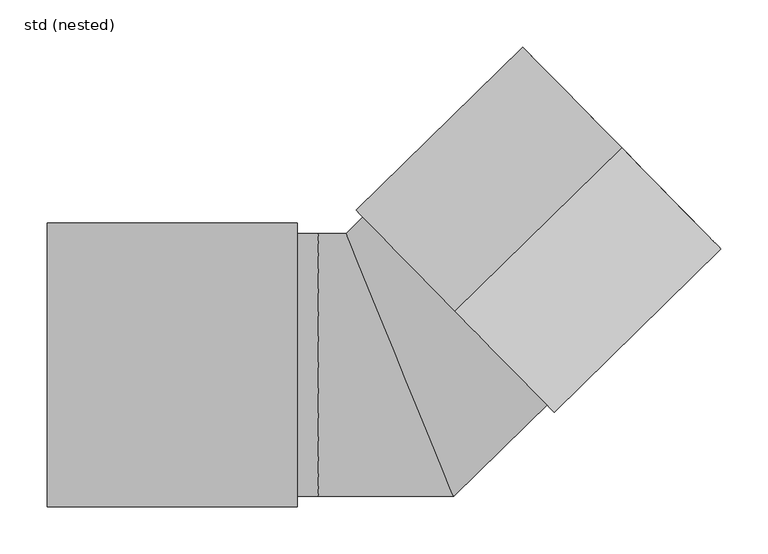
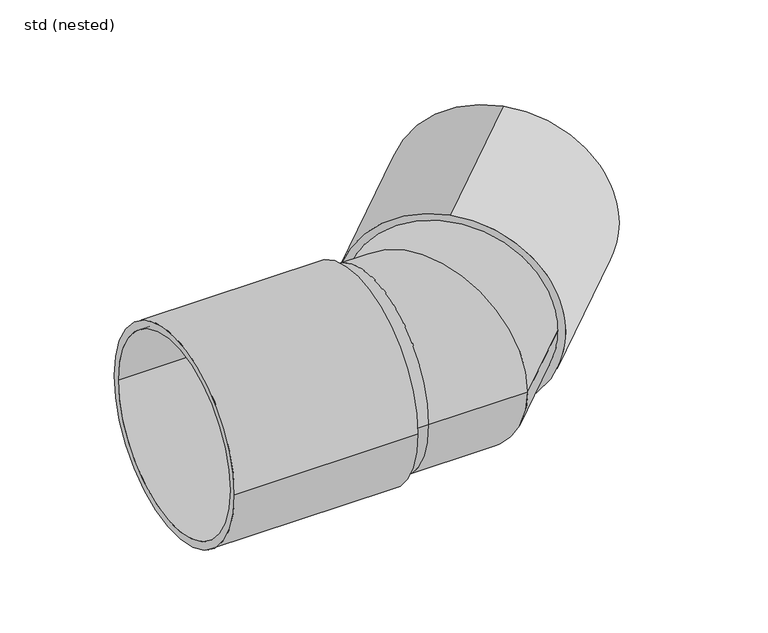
"""IFC4 building model written with IfcOpenShell, lengths in millimetres: pipe fitting geometry, NLRS_52_PIF_WPB_Ultra Kyma bocht 1MV SH_Dyka : std (nested)."""

from ifc_helpers import new_model, si_unit, point, frame, origin, origin_2d, place, context, project, spatial, circle_curve, ellipse_curve, trimmed, segment, composite_curve, outline, extrude, source, transform, mapped, element, save
from ifc_brep_helpers import plane_surface, cylinder_surface, advanced_brep


def std_nested_235c0f0a(model_context):
    return source(origin(), model_context, "Body", "SolidModel", [
        advanced_brep(
        [(-86.5741292, -140.0, 0.0), (57.1715948, -140.0, 0.0), (-57.1715948, 140.0, 0.0), (-86.5741292, 140.0, 0.0), (159.8263735, -39.3777879, 0.0), (61.8261736, 60.6020141, 140.0), (-36.1740264, 160.5818161, 0.0), (61.8261736, 60.6020141, -140.0), (147.1131373, 144.2002942, -140.0), (147.1131373, 144.2002942, 140.0), (-233.0, -140.0, 0.0), (-233.0, 140.0, 0.0)],
        [
            (0, 1),
            (1, 2, ellipse_curve(frame((0.0, 0.0, 0.0), z_axis=(-0.9257811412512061, -0.3780598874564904, 0.0), x_axis=(-0.37805988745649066, 0.925781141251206, 0.0)), 151.2236465, 140.0)),
            (2, 3),
            (3, 0, circle_curve(frame((-86.5741292, 0.0, 0.0), z_axis=(1.0, 0.0, 0.0), x_axis=(0.0, 1.0, 0.0)), 140.0)),
            (0, 3, circle_curve(frame((-86.5741292, 0.0, 0.0), z_axis=(1.0, 0.0, 0.0), x_axis=(0.0, 1.0, 0.0)), 140.0)),
            (2, 1, ellipse_curve(frame((0.0, 0.0, 0.0), z_axis=(-0.9257811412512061, -0.3780598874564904, 0.0), x_axis=(-0.37805988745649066, 0.925781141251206, 0.0)), 151.2236465, 140.0)),
            (1, 4),
            (4, 5, circle_curve(frame((61.8261736, 60.6020141, 0.0), z_axis=(-0.714141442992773, -0.7000014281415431, 0.0), x_axis=(-0.7000014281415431, 0.714141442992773, 0.0)), 140.0)),
            (5, 6, circle_curve(frame((61.8261736, 60.6020141, 0.0), z_axis=(-0.714141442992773, -0.7000014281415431, 0.0), x_axis=(-0.7000014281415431, 0.714141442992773, 0.0)), 140.0)),
            (6, 2),
            (6, 7, circle_curve(frame((61.8261736, 60.6020141, 0.0), z_axis=(-0.714141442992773, -0.7000014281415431, 0.0), x_axis=(-0.7000014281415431, 0.714141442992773, 0.0)), 140.0)),
            (7, 4, circle_curve(frame((61.8261736, 60.6020141, 0.0), z_axis=(-0.714141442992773, -0.7000014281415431, 0.0), x_axis=(-0.7000014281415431, 0.714141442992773, 0.0)), 140.0)),
            (8, 9, circle_curve(frame((147.1131373, 144.2002942, 0.0), z_axis=(0.7141414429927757, 0.7000014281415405, 0.0), x_axis=(0.0, 0.0, 1.0)), 140.0)),
            (9, 8, circle_curve(frame((147.1131373, 144.2002942, 0.0), z_axis=(0.7141414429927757, 0.7000014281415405, 0.0), x_axis=(0.0, 0.0, 1.0)), 140.0)),
            (8, 7),
            (5, 9),
            (10, 11, circle_curve(frame((-233.0, 0.0, 0.0), z_axis=(-1.0, 0.0, 0.0), x_axis=(0.0, 1.0, 0.0)), 140.0)),
            (11, 10, circle_curve(frame((-233.0, 0.0, 0.0), z_axis=(-1.0, 0.0, 0.0), x_axis=(0.0, 1.0, 0.0)), 140.0)),
            (10, 0),
            (3, 11),
        ],
        [
            cylinder_surface(frame((-86.5741292, 0.0, 0.0), z_axis=(-1.0, 0.0, 0.0), x_axis=(0.0, 1.0, 0.0)), 140.0),
            cylinder_surface(frame((0.0, 0.0, 0.0), z_axis=(-0.714141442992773, -0.7000014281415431, 0.0), x_axis=(-0.7000014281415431, 0.714141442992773, 0.0)), 140.0),
            plane_surface(frame((147.1131373, 144.2002942, 140.0), z_axis=(0.7141414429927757, 0.7000014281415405, 0.0), x_axis=(0.7000014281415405, -0.7141414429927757, 0.0))),
            cylinder_surface(frame((61.8261736, 60.6020141, 0.0), z_axis=(0.7141414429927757, 0.7000014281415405, 0.0), x_axis=(0.0, 0.0, 1.0)), 140.0),
            plane_surface(frame((-233.0, 140.0, 0.0), z_axis=(-1.0, 0.0, 0.0), x_axis=(0.0, 0.0, -1.0))),
        ],
        [
            (0, [[1, 2, 3, 4]]),
            (0, [[-1, 5, -3, 6]]),
            (1, [[-2, 7, 8, 9, 10]]),
            (1, [[-6, -10, 11, 12, -7]]),
            (2, [[13, 14]]),
            (3, [[-13, 15, -11, -9, 16]]),
            (3, [[-14, -16, -8, -12, -15]]),
            (4, [[17, 18]]),
            (0, [[-17, 19, -4, 20]]),
            (0, [[-18, -20, -5, -19]]),
        ],
    ),
        extrude(outline(composite_curve([segment(trimmed(circle_curve(origin_2d(), 151.0), [point((-151.0, 0.0))], [point((151.0, 0.0))], False, "CARTESIAN"), True, "CONTINUOUS"), segment(trimmed(circle_curve(origin_2d(), 151.0), [point((151.0, 0.0))], [point((-151.0, 0.0))], False, "CARTESIAN"), True, "CONTINUOUS")], self_intersect=False), holes=[composite_curve([segment(trimmed(circle_curve(origin_2d(), 140.0), [point((140.0, 0.0))], [point((-140.0, 0.0))], True, "CARTESIAN"), True, "CONTINUOUS"), segment(trimmed(circle_curve(origin_2d(), 140.0), [point((-140.0, 0.0))], [point((140.0, 0.0))], True, "CARTESIAN"), True, "CONTINUOUS")], self_intersect=False)]), frame((58.5595983, 57.4001171, 0.0), z_axis=(0.7141414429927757, 0.7000014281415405, 0.0), x_axis=(0.0, 0.0, 1.0)), (0.0, 0.0, 1.0), 248.0),
        extrude(outline(composite_curve([segment(trimmed(circle_curve(origin_2d(), 151.0), [point((151.0, 0.0))], [point((-151.0, 0.0))], False, "CARTESIAN"), True, "CONTINUOUS"), segment(trimmed(circle_curve(origin_2d(), 151.0), [point((-151.0, 0.0))], [point((151.0, 0.0))], False, "CARTESIAN"), True, "CONTINUOUS")], self_intersect=False), holes=[composite_curve([segment(trimmed(circle_curve(origin_2d(), 140.0), [point((-140.0, 0.0))], [point((140.0, 0.0))], True, "CARTESIAN"), True, "CONTINUOUS"), segment(trimmed(circle_curve(origin_2d(), 140.0), [point((140.0, 0.0))], [point((-140.0, 0.0))], True, "CARTESIAN"), True, "CONTINUOUS")], self_intersect=False)]), frame((-375.0, 0.0, 0.0), z_axis=(1.0, 0.0, 0.0), x_axis=(0.0, 1.0, 0.0)), (0.0, 0.0, 1.0), 266.0),
    ])


if __name__ == "__main__":
    model = new_model("IFC4")
    model_context = context("Model", 3, world=origin())
    ifc_project = project(units=[si_unit("LENGTHUNIT", "METRE", prefix="MILLI")], contexts=[model_context])
    site = spatial("IfcSite", under=ifc_project)
    building = spatial("IfcBuilding", under=site)
    placement = place(None, origin())
    std_nested_shape = std_nested_235c0f0a(model_context)
    element("IfcPipeFitting", 1, ObjectType="NLRS_52_PIF_WPB_Ultra Kyma bocht 1MV SH_Dyka : std (nested)", at=placement, inside=building, context=model_context, shape_type="MappedRepresentation", body=[
        mapped(std_nested_shape, transform((0.0, 0.0, 0.0), x_axis=(1.0, 0.0, 0.0), y_axis=(0.0, 1.0, 0.0), z_axis=(0.0, 0.0, 1.0))),
    ])
    save(model, "model.ifc")
